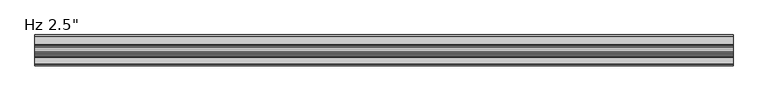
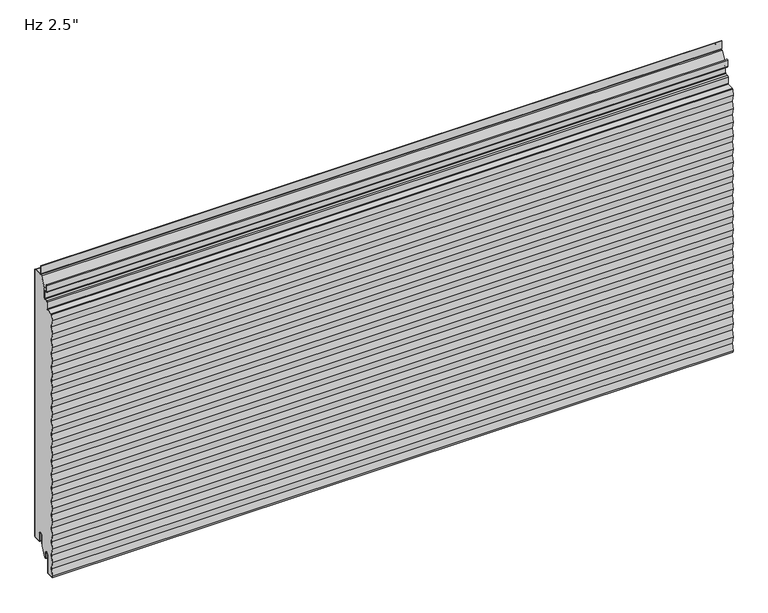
"""IFC4 building model written with IfcOpenShell, lengths in millimetres: plate geometry."""

from ifc_helpers import new_model, si_unit, point, frame, frame_2d, origin, place, context, project, spatial, polyline, circle_curve, ellipse_curve, trimmed, segment, composite_curve, outline, extrude, source, transform, mapped, element, save
from ifc_brep_helpers import plane_surface, cylinder_surface, revolved_surface, extruded_surface, advanced_brep


def plate_45d4bc66(model_context):
    return source(origin(), model_context, "Body", "SolidModel", [
        extrude(outline(composite_curve([segment(trimmed(circle_curve(frame_2d((-21.43125, 19.05)), 4.96875), [point((-16.4625, 19.05))], [point((-26.4, 19.05))], True, "CARTESIAN"), True, "CONTINUOUS"), segment(polyline([(-26.4, 19.05), (-26.4, -3.1323422), (-36.5326309, -23.01875), (-38.1, -23.01875), (-38.1, -13.5080174), (-38.89375, -13.5080174), (-38.6875, -11.9205174)]), True, "CONTINUOUS"), segment(trimmed(circle_curve(frame_2d((-43.65625, -11.9205174)), 4.96875), [point((-38.6875, -11.9205174))], [point((-48.625, -11.9205174))], True, "CARTESIAN"), True, "CONTINUOUS"), segment(polyline([(-48.625, -11.9205174), (-48.625, -50.1038221)]), True, "CONTINUOUS"), segment(trimmed(circle_curve(frame_2d((-50.00625, -50.1038221)), 1.38125), [point((-48.625, -50.1038221))], [point((-49.933961, -51.4831791))], False, "CARTESIAN"), True, "CONTINUOUS"), segment(polyline([(-49.933961, -51.4831791), (-63.1062471, -52.1735094), (-63.6378194, -48.8511825), (-61.1994194, -33.6111825), (-63.6378194, -18.3711825), (-61.1994194, -3.1311825), (-63.6378194, 12.1088175), (-61.1994194, 27.3488175), (-63.6378194, 42.5888175), (-61.1994194, 57.8288175), (-63.6378194, 73.0688175), (-61.1994194, 88.3088175), (-63.6378194, 103.5488175), (-61.1994194, 118.7888175), (-63.6378194, 134.0288175), (-61.1994194, 149.2688175), (-63.6378194, 164.5088175), (-61.1994194, 179.7488175), (-63.6378194, 194.9888175), (-61.1994194, 210.2288175), (-63.6378194, 225.4688175), (-61.1994194, 240.7088175), (-63.6378194, 255.9488175), (-61.1994194, 271.1888175), (-63.6378194, 286.4288175), (-61.1994194, 301.6688175), (-63.6378194, 316.9088175), (-61.1994194, 332.1488175), (-63.6378194, 347.3888175), (-61.1994194, 362.6288175), (-63.6378194, 377.8688175), (-61.1994194, 393.1088175), (-63.6378194, 408.3488175), (-61.1994194, 423.5888175), (-63.6378194, 438.8288175), (-61.1994194, 454.0688175), (-63.6378194, 469.3088175), (-61.1994194, 484.5488175), (-63.6378194, 499.7888175), (-61.1994194, 515.0288175), (-63.6054086, 530.06625), (-61.5673048, 542.8043985), (-47.4895807, 543.5421807)]), True, "CONTINUOUS"), segment(trimmed(circle_curve(frame_2d((-47.625, 546.1261347)), 2.5875), [point((-47.4895807, 543.5421807))], [point((-45.0375, 546.1261347))], True, "CARTESIAN"), True, "CONTINUOUS"), segment(polyline([(-45.0375, 546.1261347), (-45.0375, 560.2824411)]), True, "CONTINUOUS"), segment(trimmed(circle_curve(frame_2d((-43.65625, 560.2824411)), 1.38125), [point((-45.0375, 560.2824411))], [point((-43.728539, 561.6617981))], False, "CARTESIAN"), True, "CONTINUOUS"), segment(polyline([(-43.728539, 561.6617981), (-37.9645807, 561.9638744)]), True, "CONTINUOUS"), segment(trimmed(circle_curve(frame_2d((-38.1, 564.5478283)), 2.5875), [point((-37.9645807, 561.9638744))], [point((-35.5125, 564.5478283))], True, "CARTESIAN"), True, "CONTINUOUS"), segment(polyline([(-35.5125, 564.5478283), (-35.5125, 586.9892934), (-24.9057308, 607.80625), (-2.38125, 607.80625)]), True, "CONTINUOUS"), segment(trimmed(circle_curve(frame_2d((-2.38125, 606.425)), 1.38125), [point((-2.38125, 607.80625))], [point((-1.0, 606.425))], False, "CARTESIAN"), True, "CONTINUOUS"), segment(polyline([(-1.0, 606.425), (-1.0, 3.175)]), True, "CONTINUOUS"), segment(trimmed(circle_curve(frame_2d((-2.38125, 3.175)), 1.38125), [point((-1.0, 3.175))], [point((-2.38125, 1.79375))], False, "CARTESIAN"), True, "CONTINUOUS"), segment(polyline([(-2.38125, 1.79375), (-15.08125, 1.79375)]), True, "CONTINUOUS"), segment(trimmed(circle_curve(frame_2d((-15.08125, 3.175)), 1.38125), [point((-15.08125, 1.79375))], [point((-16.4625, 3.175))], False, "CARTESIAN"), True, "CONTINUOUS"), segment(polyline([(-16.4625, 3.175), (-16.4625, 19.05)]), True, "CONTINUOUS")], self_intersect=False)), frame((-730.0, 0.0, 0.0), z_axis=(1.0, 0.0, 0.0), x_axis=(0.0, 1.0, 0.0)), (0.0, 0.0, 1.0), 1460.0),
        extrude(outline(composite_curve([segment(polyline([(-25.4, 0.79375), (-26.4, 0.79375), (-26.4, 19.05)]), True, "CONTINUOUS"), segment(trimmed(circle_curve(frame_2d((-21.43125, 19.05)), 4.96875), [point((-26.4, 19.05))], [point((-16.4625, 19.05))], False, "CARTESIAN"), True, "CONTINUOUS"), segment(polyline([(-16.4625, 19.05), (-16.4625, 3.175)]), True, "CONTINUOUS"), segment(trimmed(circle_curve(frame_2d((-15.08125, 3.175)), 1.38125), [point((-16.4625, 3.175))], [point((-15.08125, 1.79375))], True, "CARTESIAN"), True, "CONTINUOUS"), segment(polyline([(-15.08125, 1.79375), (-2.38125, 1.79375)]), True, "CONTINUOUS"), segment(trimmed(circle_curve(frame_2d((-2.38125, 3.175)), 1.38125), [point((-2.38125, 1.79375))], [point((-1.0, 3.175))], True, "CARTESIAN"), True, "CONTINUOUS"), segment(polyline([(-1.0, 3.175), (-1.0, 606.425)]), True, "CONTINUOUS"), segment(trimmed(circle_curve(frame_2d((-2.38125, 606.425)), 1.38125), [point((-1.0, 606.425))], [point((-2.38125, 607.80625))], True, "CARTESIAN"), True, "CONTINUOUS"), segment(polyline([(-2.38125, 607.80625), (-19.446875, 607.80625)]), True, "CONTINUOUS"), segment(trimmed(circle_curve(frame_2d((-19.446875, 610.39375)), 2.5875), [point((-19.446875, 607.80625))], [point((-22.034375, 610.39375))], False, "CARTESIAN"), True, "CONTINUOUS"), segment(polyline([(-22.034375, 610.39375), (-22.034375, 627.85625), (-21.034375, 627.85625), (-21.034375, 610.39375)]), True, "CONTINUOUS"), segment(trimmed(circle_curve(frame_2d((-19.446875, 610.39375)), 1.5875), [point((-21.034375, 610.39375))], [point((-19.446875, 608.80625))], True, "CARTESIAN"), True, "CONTINUOUS"), segment(polyline([(-19.446875, 608.80625), (-2.38125, 608.80625)]), True, "CONTINUOUS"), segment(trimmed(circle_curve(frame_2d((-2.38125, 606.425)), 2.38125), [point((-2.38125, 608.80625))], [point((0.0, 606.425))], False, "CARTESIAN"), True, "CONTINUOUS"), segment(polyline([(0.0, 606.425), (0.0, 3.175)]), True, "CONTINUOUS"), segment(trimmed(circle_curve(frame_2d((-2.38125, 3.175)), 2.38125), [point((0.0, 3.175))], [point((-2.38125, 0.79375))], False, "CARTESIAN"), True, "CONTINUOUS"), segment(polyline([(-2.38125, 0.79375), (-15.08125, 0.79375)]), True, "CONTINUOUS"), segment(trimmed(circle_curve(frame_2d((-15.08125, 3.175)), 2.38125), [point((-15.08125, 0.79375))], [point((-17.4625, 3.175))], False, "CARTESIAN"), True, "CONTINUOUS"), segment(polyline([(-17.4625, 3.175), (-17.4625, 19.05)]), True, "CONTINUOUS"), segment(trimmed(circle_curve(frame_2d((-21.43125, 19.05)), 3.96875), [point((-17.4625, 19.05))], [point((-25.4, 19.05))], True, "CARTESIAN"), True, "CONTINUOUS"), segment(polyline([(-25.4, 19.05), (-25.4, 0.79375)]), True, "CONTINUOUS")], self_intersect=False)), frame((-730.0, 0.0, 0.0), z_axis=(1.0, 0.0, 0.0), x_axis=(0.0, 1.0, 0.0)), (0.0, 0.0, 1.0), 1460.0),
        advanced_brep(
        [(-730.0, -61.2998204, 271.1690814), (730.0, -61.2998204, 271.1690814), (730.0, -63.7382204, 255.9290814), (-730.0, -63.7382204, 255.9290814), (-730.0, -61.243375, 543.8227473), (730.0, -61.243375, 543.8227473), (730.0, -47.5419167, 544.5408103), (-730.0, -47.5419167, 544.5408103), (-730.0, -62.3125395, 515.0090814), (730.0, -62.3125395, 515.0090814), (730.0, -64.7185287, 530.0465139), (-730.0, -64.7185287, 530.0465139), (-730.0, -61.2998204, 515.0090814), (730.0, -61.2998204, 515.0090814), (730.0, -63.7382204, 499.7690814), (-730.0, -63.7382204, 499.7690814), (730.0, -61.2998204, 484.5290814), (-730.0, -61.2998204, 484.5290814), (730.0, -63.7382204, 469.2890814), (-730.0, -63.7382204, 469.2890814), (730.0, -61.2998204, 454.0490814), (-730.0, -61.2998204, 454.0490814), (730.0, -63.7382204, 438.8090814), (-730.0, -63.7382204, 438.8090814), (730.0, -61.2998204, 423.5690814), (-730.0, -61.2998204, 423.5690814), (730.0, -63.7382204, 408.3290814), (-730.0, -63.7382204, 408.3290814), (730.0, -61.2998204, 393.0890814), (-730.0, -61.2998204, 393.0890814), (730.0, -63.7382204, 377.8490814), (-730.0, -63.7382204, 377.8490814), (730.0, -61.2998204, 362.6090814), (-730.0, -61.2998204, 362.6090814), (730.0, -63.7382204, 347.3690814), (-730.0, -63.7382204, 347.3690814), (730.0, -61.2998204, 332.1290814), (-730.0, -61.2998204, 332.1290814), (730.0, -63.7382204, 316.8890814), (-730.0, -63.7382204, 316.8890814), (-730.0, -64.7509395, 438.8090814), (730.0, -64.7509395, 438.8090814), (730.0, -62.3125395, 454.0490814), (-730.0, -62.3125395, 454.0490814), (730.0, -64.7509395, 469.2890814), (-730.0, -64.7509395, 469.2890814), (730.0, -62.3125395, 484.5290814), (-730.0, -62.3125395, 484.5290814), (730.0, -64.7509395, 499.7690814), (-730.0, -64.7509395, 499.7690814), (-730.0, -61.191039, 542.8241177), (730.0, -61.191039, 542.8241177), (730.0, -61.740413, 542.3302423), (-730.0, -61.740413, 542.3302423), (730.0, -63.7058096, 530.0465139), (-730.0, -63.7058096, 530.0465139), (-730.0, -62.3125395, 362.6090814), (730.0, -62.3125395, 362.6090814), (730.0, -64.7509395, 377.8490814), (-730.0, -64.7509395, 377.8490814), (-730.0, -64.7509395, 408.3290814), (730.0, -64.7509395, 408.3290814), (730.0, -62.3125395, 423.5690814), (-730.0, -62.3125395, 423.5690814), (-730.0, -62.3125395, 301.6490814), (730.0, -62.3125395, 301.6490814), (730.0, -64.7509395, 316.8890814), (-730.0, -64.7509395, 316.8890814), (-730.0, -64.7509395, 347.3690814), (730.0, -64.7509395, 347.3690814), (-730.0, -62.3125395, 240.6890814), (730.0, -62.3125395, 240.6890814), (730.0, -64.7509395, 255.9290814), (-730.0, -64.7509395, 255.9290814), (-730.0, -64.7509395, 286.4090814), (730.0, -64.7509395, 286.4090814), (-730.0, -62.3125395, 179.7290814), (730.0, -62.3125395, 179.7290814), (730.0, -64.7509395, 194.9690814), (-730.0, -64.7509395, 194.9690814), (-730.0, -64.7509395, 225.4490814), (730.0, -64.7509395, 225.4490814), (-730.0, -62.3125395, 118.7690814), (730.0, -62.3125395, 118.7690814), (730.0, -64.7509395, 134.0090814), (-730.0, -64.7509395, 134.0090814), (-730.0, -64.7509395, 164.4890814), (730.0, -64.7509395, 164.4890814), (-730.0, -62.3125395, 57.8090814), (730.0, -62.3125395, 57.8090814), (730.0, -64.7509395, 73.0490814), (-730.0, -64.7509395, 73.0490814), (-730.0, -64.7509395, 103.5290814), (730.0, -64.7509395, 103.5290814), (-730.0, -62.3125395, -3.1509186), (730.0, -62.3125395, -3.1509186), (730.0, -64.7509395, 12.0890814), (-730.0, -64.7509395, 12.0890814), (-730.0, -64.7509395, 42.5690814), (730.0, -64.7509395, 42.5690814), (-730.0, -38.1, -23.2314549), (-730.0, -39.6875, -23.2314549), (-730.0, -39.6875, -11.9205174), (-730.0, -47.625, -11.9205174), (-730.0, -47.625, -50.1038221), (-730.0, -49.881625, -52.4818086), (-730.0, -64.0543553, -53.22457), (-730.0, -64.7509395, -48.8709186), (-730.0, -62.3125395, -33.6309186), (-730.0, -64.7509395, -18.3909186), (-730.0, -62.3125395, 27.3290814), (-730.0, -62.3125395, 88.2890814), (-730.0, -62.3125395, 149.2490814), (-730.0, -62.3125395, 210.2090814), (-730.0, -62.3125395, 271.1690814), (-730.0, -62.3125395, 332.1290814), (-730.0, -62.3125395, 393.0890814), (-730.0, -62.7278537, 542.4882328), (-730.0, -46.0375, 546.1261347), (-730.0, -46.0375, 560.2824411), (-730.0, -43.780875, 562.6604276), (-730.0, -38.0169167, 562.9625039), (-730.0, -36.5125, 564.5478283), (-730.0, -36.5125, 579.4232326), (-730.0, -38.1, 581.0107326), (-730.0, -42.2671875, 581.0107326), (-730.0, -44.6484375, 583.3919826), (-730.0, -44.6484375, 597.8836032), (-730.0, -42.8546875, 597.8836032), (-730.0, -42.8546875, 588.1544826), (-730.0, -43.6484375, 588.1544826), (-730.0, -43.6484375, 583.3919826), (-730.0, -42.2671875, 582.0107326), (-730.0, -38.1, 582.0107326), (-730.0, -35.5125, 579.4232326), (-730.0, -35.5125, 564.5478283), (-730.0, -37.9645807, 561.9638744), (-730.0, -43.728539, 561.6617981), (-730.0, -45.0375, 560.2824411), (-730.0, -45.0375, 546.1261347), (-730.0, -47.4895807, 543.5421807), (-730.0, -61.2998204, 301.6490814), (-730.0, -63.7382204, 286.4090814), (-730.0, -61.2998204, 240.6890814), (-730.0, -63.7382204, 225.4490814), (-730.0, -61.2998204, 210.2090814), (-730.0, -63.7382204, 194.9690814), (-730.0, -61.2998204, 179.7290814), (-730.0, -63.7382204, 164.4890814), (-730.0, -61.2998204, 149.2490814), (-730.0, -63.7382204, 134.0090814), (-730.0, -61.2998204, 118.7690814), (-730.0, -63.7382204, 103.5290814), (-730.0, -61.2998204, 88.2890814), (-730.0, -63.7382204, 73.0490814), (-730.0, -61.2998204, 57.8090814), (-730.0, -63.7382204, 42.5690814), (-730.0, -61.2998204, 27.3290814), (-730.0, -63.7382204, 12.0890814), (-730.0, -61.2998204, -3.1509186), (-730.0, -63.7382204, -18.3909186), (-730.0, -61.2998204, -33.6309186), (-730.0, -63.7382204, -48.8709186), (-730.0, -63.2089447, -52.1788915), (-730.0, -49.933961, -51.4831791), (-730.0, -48.625, -50.1038221), (-730.0, -48.625, -11.9205174), (-730.0, -38.6875, -11.9205174), (-730.0, -38.89375, -13.5080174), (-730.0, -38.1, -13.5080174), (730.0, -38.1, -23.2314549), (730.0, -38.1, -13.5080174), (730.0, -38.89375, -13.5080174), (730.0, -38.6875, -11.9205174), (730.0, -48.625, -11.9205174), (730.0, -48.625, -50.1038221), (730.0, -49.933961, -51.4831791), (730.0, -63.2089447, -52.1788915), (730.0, -63.7382204, -48.8709186), (730.0, -61.2998204, -33.6309186), (730.0, -63.7382204, -18.3909186), (730.0, -61.2998204, -3.1509186), (730.0, -63.7382204, 12.0890814), (730.0, -61.2998204, 27.3290814), (730.0, -63.7382204, 42.5690814), (730.0, -61.2998204, 57.8090814), (730.0, -63.7382204, 73.0490814), (730.0, -61.2998204, 88.2890814), (730.0, -63.7382204, 103.5290814), (730.0, -61.2998204, 118.7690814), (730.0, -63.7382204, 134.0090814), (730.0, -61.2998204, 149.2490814), (730.0, -63.7382204, 164.4890814), (730.0, -61.2998204, 179.7290814), (730.0, -63.7382204, 194.9690814), (730.0, -61.2998204, 210.2090814), (730.0, -63.7382204, 225.4490814), (730.0, -61.2998204, 240.6890814), (730.0, -63.7382204, 286.4090814), (730.0, -61.2998204, 301.6490814), (730.0, -47.4895807, 543.5421807), (730.0, -45.0375, 546.1261347), (730.0, -45.0375, 560.2824411), (730.0, -43.728539, 561.6617981), (730.0, -37.9645807, 561.9638744), (730.0, -35.5125, 564.5478283), (730.0, -35.5125, 579.4232326), (730.0, -38.1, 582.0107326), (730.0, -42.2671875, 582.0107326), (730.0, -43.6484375, 583.3919826), (730.0, -43.6484375, 588.1544826), (730.0, -42.8546875, 588.1544826), (730.0, -42.8546875, 597.8836032), (730.0, -44.6484375, 597.8836032), (730.0, -44.6484375, 583.3919826), (730.0, -42.2671875, 581.0107326), (730.0, -38.1, 581.0107326), (730.0, -36.5125, 579.4232326), (730.0, -36.5125, 564.5478283), (730.0, -38.0169167, 562.9625039), (730.0, -43.780875, 562.6604276), (730.0, -46.0375, 560.2824411), (730.0, -46.0375, 546.1261347), (730.0, -62.7278537, 542.4882328), (730.0, -62.3125395, 393.0890814), (730.0, -62.3125395, 332.1290814), (730.0, -62.3125395, 271.1690814), (730.0, -62.3125395, 210.2090814), (730.0, -62.3125395, 149.2490814), (730.0, -62.3125395, 88.2890814), (730.0, -62.3125395, 27.3290814), (730.0, -64.7509395, -18.3909186), (730.0, -62.3125395, -33.6309186), (730.0, -64.7509395, -48.8709186), (730.0, -64.0543553, -53.22457), (730.0, -49.881625, -52.4818086), (730.0, -47.625, -50.1038221), (730.0, -47.625, -11.9205174), (730.0, -39.6875, -11.9205174), (730.0, -39.6875, -23.2314549)],
        [
            (0, 1),
            (1, 2),
            (2, 3),
            (3, 0),
            (4, 5),
            (5, 6),
            (6, 7),
            (7, 4),
            (8, 9),
            (9, 10),
            (10, 11),
            (11, 8),
            (12, 13),
            (13, 14),
            (14, 15),
            (15, 12),
            (14, 16),
            (16, 17),
            (17, 15),
            (16, 18),
            (18, 19),
            (19, 17),
            (18, 20),
            (20, 21),
            (21, 19),
            (20, 22),
            (22, 23),
            (23, 21),
            (22, 24),
            (24, 25),
            (25, 23),
            (24, 26),
            (26, 27),
            (27, 25),
            (26, 28),
            (28, 29),
            (29, 27),
            (28, 30),
            (30, 31),
            (31, 29),
            (30, 32),
            (32, 33),
            (33, 31),
            (32, 34),
            (34, 35),
            (35, 33),
            (34, 36),
            (36, 37),
            (37, 35),
            (36, 38),
            (38, 39),
            (39, 37),
            (40, 41),
            (41, 42),
            (42, 43),
            (43, 40),
            (42, 44),
            (44, 45),
            (45, 43),
            (44, 46),
            (46, 47),
            (47, 45),
            (46, 48),
            (48, 49),
            (49, 47),
            (48, 9),
            (8, 49),
            (50, 51),
            (51, 52, circle_curve(frame((730.0, -61.1602917, 542.2374229), z_axis=(1.0, 0.0, 0.0), x_axis=(0.0, 0.0, 1.0)), 0.5875)),
            (52, 53),
            (53, 50, circle_curve(frame((-730.0, -61.1602917, 542.2374229), z_axis=(-1.0, 0.0, 0.0), x_axis=(0.0, 0.0, 1.0)), 0.5875)),
            (52, 54),
            (54, 55),
            (55, 53),
            (56, 57),
            (57, 58),
            (58, 59),
            (59, 56),
            (60, 61),
            (61, 62),
            (62, 63),
            (63, 60),
            (64, 65),
            (65, 66),
            (66, 67),
            (67, 64),
            (68, 69),
            (69, 57),
            (56, 68),
            (70, 71),
            (71, 72),
            (72, 73),
            (73, 70),
            (74, 75),
            (75, 65),
            (64, 74),
            (76, 77),
            (77, 78),
            (78, 79),
            (79, 76),
            (80, 81),
            (81, 71),
            (70, 80),
            (82, 83),
            (83, 84),
            (84, 85),
            (85, 82),
            (86, 87),
            (87, 77),
            (76, 86),
            (88, 89),
            (89, 90),
            (90, 91),
            (91, 88),
            (92, 93),
            (93, 83),
            (82, 92),
            (94, 95),
            (95, 96),
            (96, 97),
            (97, 94),
            (98, 99),
            (99, 89),
            (88, 98),
            (100, 101, circle_curve(frame((-730.0, -38.89375, -23.2314549), z_axis=(-1.0, 0.0, 0.0), x_axis=(0.0, 0.0, 1.0)), 0.79375)),
            (101, 102),
            (102, 103, circle_curve(frame((-730.0, -43.65625, -11.9205174), z_axis=(1.0, 0.0, 0.0), x_axis=(0.0, 0.0, 1.0)), 3.96875)),
            (103, 104),
            (104, 105, circle_curve(frame((-730.0, -50.00625, -50.1038221), z_axis=(-1.0, 0.0, 0.0), x_axis=(0.0, 0.0, 1.0)), 2.38125)),
            (105, 106),
            (106, 107),
            (107, 108),
            (108, 109),
            (109, 94),
            (97, 110),
            (110, 98),
            (91, 111),
            (111, 92),
            (85, 112),
            (112, 86),
            (79, 113),
            (113, 80),
            (73, 114),
            (114, 74),
            (67, 115),
            (115, 68),
            (59, 116),
            (116, 60),
            (63, 40),
            (11, 117),
            (117, 4, circle_curve(frame((-730.0, -61.1602917, 542.2374229), z_axis=(-1.0, 0.0, 0.0), x_axis=(0.0, 0.0, 1.0)), 1.5875)),
            (7, 118, circle_curve(frame((-730.0, -47.625, 546.1261347), z_axis=(1.0, 0.0, 0.0), x_axis=(0.0, 0.0, 1.0)), 1.5875)),
            (118, 119),
            (119, 120, circle_curve(frame((-730.0, -43.65625, 560.2824411), z_axis=(-1.0, 0.0, 0.0), x_axis=(0.0, 0.0, 1.0)), 2.38125)),
            (120, 121),
            (121, 122, circle_curve(frame((-730.0, -38.1, 564.5478283), z_axis=(1.0, 0.0, 0.0), x_axis=(0.0, 0.0, 1.0)), 1.5875)),
            (122, 123),
            (123, 124, circle_curve(frame((-730.0, -38.1, 579.4232326), z_axis=(1.0, 0.0, 0.0), x_axis=(0.0, 0.0, 1.0)), 1.5875)),
            (124, 125),
            (125, 126, circle_curve(frame((-730.0, -42.2671875, 583.3919826), z_axis=(-1.0, 0.0, 0.0), x_axis=(0.0, 0.0, 1.0)), 2.38125)),
            (126, 127),
            (127, 128, ellipse_curve(frame((-730.0, -43.7515625, 597.8836032), z_axis=(-1.0, 0.0, 0.0), x_axis=(0.0, 1.0, 0.0)), 0.896875, 0.7852275)),
            (128, 129),
            (129, 130),
            (130, 131),
            (131, 132, circle_curve(frame((-730.0, -42.2671875, 583.3919826), z_axis=(1.0, 0.0, 0.0), x_axis=(0.0, 0.0, 1.0)), 1.38125)),
            (132, 133),
            (133, 134, circle_curve(frame((-730.0, -38.1, 579.4232326), z_axis=(-1.0, 0.0, 0.0), x_axis=(0.0, 0.0, 1.0)), 2.5875)),
            (134, 135),
            (135, 136, circle_curve(frame((-730.0, -38.1, 564.5478283), z_axis=(-1.0, 0.0, 0.0), x_axis=(0.0, 0.0, 1.0)), 2.5875)),
            (136, 137),
            (137, 138, circle_curve(frame((-730.0, -43.65625, 560.2824411), z_axis=(1.0, 0.0, 0.0), x_axis=(0.0, 0.0, 1.0)), 1.38125)),
            (138, 139),
            (139, 140, circle_curve(frame((-730.0, -47.625, 546.1261347), z_axis=(-1.0, 0.0, 0.0), x_axis=(0.0, 0.0, 1.0)), 2.5875)),
            (140, 50),
            (55, 12),
            (39, 141),
            (141, 142),
            (142, 0),
            (3, 143),
            (143, 144),
            (144, 145),
            (145, 146),
            (146, 147),
            (147, 148),
            (148, 149),
            (149, 150),
            (150, 151),
            (151, 152),
            (152, 153),
            (153, 154),
            (154, 155),
            (155, 156),
            (156, 157),
            (157, 158),
            (158, 159),
            (159, 160),
            (160, 161),
            (161, 162),
            (162, 163),
            (163, 164),
            (164, 165, circle_curve(frame((-730.0, -50.00625, -50.1038221), z_axis=(1.0, 0.0, 0.0), x_axis=(0.0, 0.0, 1.0)), 1.38125)),
            (165, 166),
            (166, 167, circle_curve(frame((-730.0, -43.65625, -11.9205174), z_axis=(-1.0, 0.0, 0.0), x_axis=(0.0, 0.0, 1.0)), 4.96875)),
            (167, 168),
            (168, 169),
            (169, 100),
            (170, 171),
            (171, 172),
            (172, 173),
            (173, 174, circle_curve(frame((730.0, -43.65625, -11.9205174), z_axis=(1.0, 0.0, 0.0), x_axis=(0.0, 0.0, 1.0)), 4.96875)),
            (174, 175),
            (175, 176, circle_curve(frame((730.0, -50.00625, -50.1038221), z_axis=(-1.0, 0.0, 0.0), x_axis=(0.0, 0.0, 1.0)), 1.38125)),
            (176, 177),
            (177, 178),
            (178, 179),
            (179, 180),
            (180, 181),
            (181, 182),
            (182, 183),
            (183, 184),
            (184, 185),
            (185, 186),
            (186, 187),
            (187, 188),
            (188, 189),
            (189, 190),
            (190, 191),
            (191, 192),
            (192, 193),
            (193, 194),
            (194, 195),
            (195, 196),
            (196, 197),
            (197, 2),
            (1, 198),
            (198, 199),
            (199, 38),
            (13, 54),
            (51, 200),
            (200, 201, circle_curve(frame((730.0, -47.625, 546.1261347), z_axis=(1.0, 0.0, 0.0), x_axis=(0.0, 0.0, 1.0)), 2.5875)),
            (201, 202),
            (202, 203, circle_curve(frame((730.0, -43.65625, 560.2824411), z_axis=(-1.0, 0.0, 0.0), x_axis=(0.0, 0.0, 1.0)), 1.38125)),
            (203, 204),
            (204, 205, circle_curve(frame((730.0, -38.1, 564.5478283), z_axis=(1.0, 0.0, 0.0), x_axis=(0.0, 0.0, 1.0)), 2.5875)),
            (205, 206),
            (206, 207, circle_curve(frame((730.0, -38.1, 579.4232326), z_axis=(1.0, 0.0, 0.0), x_axis=(0.0, 0.0, 1.0)), 2.5875)),
            (207, 208),
            (208, 209, circle_curve(frame((730.0, -42.2671875, 583.3919826), z_axis=(-1.0, 0.0, 0.0), x_axis=(0.0, 0.0, 1.0)), 1.38125)),
            (209, 210),
            (210, 211),
            (211, 212),
            (212, 213, ellipse_curve(frame((730.0, -43.7515625, 597.8836032), z_axis=(1.0, 0.0, 0.0), x_axis=(0.0, 1.0, 0.0)), 0.896875, 0.7852275)),
            (213, 214),
            (214, 215, circle_curve(frame((730.0, -42.2671875, 583.3919826), z_axis=(1.0, 0.0, 0.0), x_axis=(0.0, 0.0, 1.0)), 2.38125)),
            (215, 216),
            (216, 217, circle_curve(frame((730.0, -38.1, 579.4232326), z_axis=(-1.0, 0.0, 0.0), x_axis=(0.0, 0.0, 1.0)), 1.5875)),
            (217, 218),
            (218, 219, circle_curve(frame((730.0, -38.1, 564.5478283), z_axis=(-1.0, 0.0, 0.0), x_axis=(0.0, 0.0, 1.0)), 1.5875)),
            (219, 220),
            (220, 221, circle_curve(frame((730.0, -43.65625, 560.2824411), z_axis=(1.0, 0.0, 0.0), x_axis=(0.0, 0.0, 1.0)), 2.38125)),
            (221, 222),
            (222, 6, circle_curve(frame((730.0, -47.625, 546.1261347), z_axis=(-1.0, 0.0, 0.0), x_axis=(0.0, 0.0, 1.0)), 1.5875)),
            (5, 223, circle_curve(frame((730.0, -61.1602917, 542.2374229), z_axis=(1.0, 0.0, 0.0), x_axis=(0.0, 0.0, 1.0)), 1.5875)),
            (223, 10),
            (41, 62),
            (61, 224),
            (224, 58),
            (69, 225),
            (225, 66),
            (75, 226),
            (226, 72),
            (81, 227),
            (227, 78),
            (87, 228),
            (228, 84),
            (93, 229),
            (229, 90),
            (99, 230),
            (230, 96),
            (95, 231),
            (231, 232),
            (232, 233),
            (233, 234),
            (234, 235),
            (235, 236, circle_curve(frame((730.0, -50.00625, -50.1038221), z_axis=(1.0, 0.0, 0.0), x_axis=(0.0, 0.0, 1.0)), 2.38125)),
            (236, 237),
            (237, 238, circle_curve(frame((730.0, -43.65625, -11.9205174), z_axis=(-1.0, 0.0, 0.0), x_axis=(0.0, 0.0, 1.0)), 3.96875)),
            (238, 239),
            (239, 170, circle_curve(frame((730.0, -38.89375, -23.2314549), z_axis=(1.0, 0.0, 0.0), x_axis=(0.0, 0.0, 1.0)), 0.79375)),
            (169, 171),
            (170, 100),
            (163, 177),
            (176, 164),
            (175, 165),
            (174, 166),
            (173, 167),
            (168, 172),
            (129, 211),
            (210, 130),
            (128, 212),
            (127, 213),
            (139, 201),
            (200, 140),
            (137, 203),
            (202, 138),
            (135, 205),
            (204, 136),
            (131, 209),
            (208, 132),
            (133, 207),
            (206, 134),
            (126, 214),
            (124, 216),
            (215, 125),
            (122, 218),
            (217, 123),
            (120, 220),
            (219, 121),
            (118, 222),
            (221, 119),
            (105, 235),
            (234, 106),
            (103, 237),
            (236, 104),
            (101, 239),
            (238, 102),
            (199, 141),
            (198, 142),
            (197, 143),
            (196, 144),
            (195, 145),
            (194, 146),
            (193, 147),
            (192, 148),
            (191, 149),
            (190, 150),
            (189, 151),
            (223, 117),
            (116, 224),
            (115, 225),
            (114, 226),
            (113, 227),
            (112, 228),
            (111, 229),
            (110, 230),
            (108, 232),
            (231, 109),
            (233, 107),
            (161, 179),
            (178, 162),
            (159, 181),
            (180, 160),
            (157, 183),
            (182, 158),
            (155, 185),
            (184, 156),
            (153, 187),
            (186, 154),
            (188, 152),
        ],
        [
            plane_surface(frame((-730.0, -63.7382204, 255.9290814), z_axis=(0.0, 0.987440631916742, -0.15799050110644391), x_axis=(1.0, 0.0, 0.0))),
            plane_surface(frame((-730.0, -47.5419167, 544.5408103), z_axis=(0.0, -0.052335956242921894, 0.998629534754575), x_axis=(1.0, 0.0, 0.0))),
            plane_surface(frame((-730.0, -64.7185287, 530.0465139), z_axis=(0.0, -0.9874406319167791, -0.15799050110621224), x_axis=(1.0, 0.0, 0.0))),
            plane_surface(frame((-730.0, -63.7382204, 499.7690814), z_axis=(0.0, 0.9874406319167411, -0.15799050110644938), x_axis=(1.0, 0.0, 0.0))),
            plane_surface(frame((-730.0, -61.2998204, 484.5290814), z_axis=(0.0, 0.987440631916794, 0.1579905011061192), x_axis=(1.0, 0.0, 0.0))),
            plane_surface(frame((-730.0, -63.7382204, 469.2890814), z_axis=(0.0, 0.987440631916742, -0.15799050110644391), x_axis=(1.0, 0.0, 0.0))),
            plane_surface(frame((-730.0, -61.2998204, 454.0490814), z_axis=(0.0, 0.987440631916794, 0.1579905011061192), x_axis=(1.0, 0.0, 0.0))),
            plane_surface(frame((-730.0, -63.7382204, 438.8090814), z_axis=(0.0, 0.987440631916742, -0.15799050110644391), x_axis=(1.0, 0.0, 0.0))),
            plane_surface(frame((-730.0, -61.2998204, 423.5690814), z_axis=(0.0, 0.987440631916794, 0.1579905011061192), x_axis=(1.0, 0.0, 0.0))),
            plane_surface(frame((-730.0, -63.7382204, 408.3290814), z_axis=(0.0, 0.987440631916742, -0.15799050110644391), x_axis=(1.0, 0.0, 0.0))),
            plane_surface(frame((-730.0, -61.2998204, 393.0890814), z_axis=(0.0, 0.9874406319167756, 0.15799050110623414), x_axis=(1.0, 0.0, 0.0))),
            plane_surface(frame((-730.0, -63.7382204, 377.8490814), z_axis=(0.0, 0.9874406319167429, -0.15799050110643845), x_axis=(1.0, 0.0, 0.0))),
            plane_surface(frame((-730.0, -61.2998204, 362.6090814), z_axis=(0.0, 0.9874406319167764, 0.15799050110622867), x_axis=(1.0, 0.0, 0.0))),
            plane_surface(frame((-730.0, -63.7382204, 347.3690814), z_axis=(0.0, 0.9874406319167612, -0.1579905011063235), x_axis=(1.0, 0.0, 0.0))),
            plane_surface(frame((-730.0, -61.2998204, 332.1290814), z_axis=(0.0, 0.9874406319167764, 0.15799050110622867), x_axis=(1.0, 0.0, 0.0))),
            plane_surface(frame((-730.0, -63.7382204, 316.8890814), z_axis=(0.0, 0.987440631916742, -0.15799050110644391), x_axis=(1.0, 0.0, 0.0))),
            plane_surface(frame((-730.0, -62.3125395, 454.0490814), z_axis=(0.0, -0.9874406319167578, 0.15799050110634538), x_axis=(1.0, 0.0, 0.0))),
            plane_surface(frame((-730.0, -64.7509395, 469.2890814), z_axis=(0.0, -0.9874406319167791, -0.15799050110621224), x_axis=(1.0, 0.0, 0.0))),
            plane_surface(frame((-730.0, -62.3125395, 484.5290814), z_axis=(0.0, -0.9874406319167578, 0.15799050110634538), x_axis=(1.0, 0.0, 0.0))),
            plane_surface(frame((-730.0, -64.7509395, 499.7690814), z_axis=(0.0, -0.9874406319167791, -0.15799050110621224), x_axis=(1.0, 0.0, 0.0))),
            plane_surface(frame((-730.0, -62.3125395, 515.0090814), z_axis=(0.0, -0.9874406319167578, 0.15799050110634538), x_axis=(1.0, 0.0, 0.0))),
            revolved_surface(polyline([(730.0, -61.1602917, 542.8249228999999), (-730.0, -61.1602917, 542.8249228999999)]), (-730.0, -61.1602917, 542.2374229), (1.0, 0.0, 0.0)),
            plane_surface(frame((-730.0, -63.7058096, 530.0465139), z_axis=(0.0, 0.9874406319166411, -0.15799050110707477), x_axis=(1.0, 0.0, 0.0))),
            plane_surface(frame((-730.0, -64.7509395, 377.8490814), z_axis=(0.0, -0.9874406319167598, -0.15799050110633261), x_axis=(1.0, 0.0, 0.0))),
            plane_surface(frame((-730.0, -62.3125395, 423.5690814), z_axis=(0.0, -0.9874406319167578, 0.15799050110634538), x_axis=(1.0, 0.0, 0.0))),
            plane_surface(frame((-730.0, -64.7509395, 316.8890814), z_axis=(0.0, -0.9874406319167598, -0.15799050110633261), x_axis=(1.0, 0.0, 0.0))),
            plane_surface(frame((-730.0, -62.3125395, 362.6090814), z_axis=(0.0, -0.9874406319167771, 0.157990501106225), x_axis=(1.0, 0.0, 0.0))),
            plane_surface(frame((-730.0, -64.7509395, 255.9290814), z_axis=(0.0, -0.9874406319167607, -0.15799050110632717), x_axis=(1.0, 0.0, 0.0))),
            plane_surface(frame((-730.0, -62.3125395, 301.6490814), z_axis=(0.0, -0.9874406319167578, 0.15799050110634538), x_axis=(1.0, 0.0, 0.0))),
            plane_surface(frame((-730.0, -64.7509395, 194.9690814), z_axis=(0.0, -0.9874406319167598, -0.15799050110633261), x_axis=(1.0, 0.0, 0.0))),
            plane_surface(frame((-730.0, -62.3125395, 240.6890814), z_axis=(0.0, -0.9874406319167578, 0.15799050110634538), x_axis=(1.0, 0.0, 0.0))),
            plane_surface(frame((-730.0, -64.7509395, 134.0090814), z_axis=(0.0, -0.9874406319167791, -0.15799050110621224), x_axis=(1.0, 0.0, 0.0))),
            plane_surface(frame((-730.0, -62.3125395, 179.7290814), z_axis=(0.0, -0.9874406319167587, 0.15799050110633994), x_axis=(1.0, 0.0, 0.0))),
            plane_surface(frame((-730.0, -64.7509395, 73.0490814), z_axis=(0.0, -0.9874406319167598, -0.15799050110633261), x_axis=(1.0, 0.0, 0.0))),
            plane_surface(frame((-730.0, -62.3125395, 118.7690814), z_axis=(0.0, -0.9874406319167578, 0.15799050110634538), x_axis=(1.0, 0.0, 0.0))),
            plane_surface(frame((-730.0, -64.7509395, 12.0890814), z_axis=(0.0, -0.9874406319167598, -0.15799050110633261), x_axis=(1.0, 0.0, 0.0))),
            plane_surface(frame((-730.0, -62.3125395, 57.8090814), z_axis=(0.0, -0.9874406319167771, 0.157990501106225), x_axis=(1.0, 0.0, 0.0))),
            plane_surface(frame((-730.0, -63.5, 304.8), z_axis=(-1.0, 0.0, 0.0), x_axis=(0.0, -1.0, 0.0))),
            plane_surface(frame((730.0, -63.5, 304.8), z_axis=(1.0, 0.0, 0.0), x_axis=(0.0, -1.0, 0.0))),
            plane_surface(frame((-730.0, -38.1, -23.2314549), z_axis=(0.0, 1.0, 0.0), x_axis=(1.0, 0.0, 0.0))),
            plane_surface(frame((-730.0, -49.933961, -51.4831791), z_axis=(0.0, -0.052335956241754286, 0.9986295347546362), x_axis=(1.0, 0.0, 0.0))),
            revolved_surface(polyline([(730.0, -50.00625, -48.7225721), (-730.0, -50.00625, -48.7225721)]), (-730.0, -50.00625, -50.1038221), (1.0, 0.0, 0.0)),
            plane_surface(frame((-730.0, -48.625, -11.9205174), z_axis=(0.0, -1.0, 0.0), x_axis=(1.0, 0.0, 0.0))),
            cylinder_surface(frame((-730.0, -43.65625, -11.9205174), z_axis=(-1.0, 0.0, 0.0), x_axis=(0.0, 0.0, 1.0)), 4.96875),
            plane_surface(frame((-730.0, -38.1, -13.5080174), z_axis=(0.0, 0.0, 1.0), x_axis=(1.0, 0.0, 0.0))),
            plane_surface(frame((-730.0, -38.89375, -13.5080174), z_axis=(0.0, 0.9916655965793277, -0.12883844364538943), x_axis=(1.0, 0.0, 0.0))),
            plane_surface(frame((-730.0, -43.6484375, 588.1544826), z_axis=(0.0, 0.0, -1.0), x_axis=(1.0, 0.0, 0.0))),
            plane_surface(frame((-730.0, -42.8546875, 588.1544826), z_axis=(0.0, 1.0, 0.0), x_axis=(1.0, 0.0, 0.0))),
            extruded_surface(trimmed(ellipse_curve(frame((-730.0, -43.7515625, 597.8836032), z_axis=(1.0, 0.0, 0.0), x_axis=(0.0, 1.0, 0.0)), 0.896875, 0.7852275), [point((-730.0, -42.8546875, 597.8836032))], [point((-730.0, -44.6484375, 597.8836032))], True, "CARTESIAN"), (1460.0, 0.0, 0.0), 1460.0),
            cylinder_surface(frame((-730.0, -47.625, 546.1261347), z_axis=(-1.0, 0.0, 0.0), x_axis=(0.0, 0.0, 1.0)), 2.5875),
            revolved_surface(polyline([(730.0, -43.65625, 561.6636911), (-730.0, -43.65625, 561.6636911)]), (-730.0, -43.65625, 560.2824411), (1.0, 0.0, 0.0)),
            cylinder_surface(frame((-730.0, -38.1, 564.5478283), z_axis=(-1.0, 0.0, 0.0), x_axis=(0.0, 0.0, 1.0)), 2.5875),
            plane_surface(frame((-730.0, -43.728539, 561.6617981), z_axis=(0.0, 0.0523359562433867, -0.9986295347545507), x_axis=(1.0, 0.0, 0.0))),
            plane_surface(frame((-730.0, -45.0375, 546.1261347), z_axis=(0.0, 1.0, 0.0), x_axis=(1.0, 0.0, 0.0))),
            revolved_surface(polyline([(730.0, -42.2671875, 584.7732326), (-730.0, -42.2671875, 584.7732326)]), (-730.0, -42.2671875, 583.3919826), (1.0, 0.0, 0.0)),
            cylinder_surface(frame((-730.0, -38.1, 579.4232326), z_axis=(-1.0, 0.0, 0.0), x_axis=(0.0, 0.0, 1.0)), 2.5875),
            plane_surface(frame((-730.0, -38.1, 582.0107326), z_axis=(0.0, 0.0, 1.0), x_axis=(1.0, 0.0, 0.0))),
            plane_surface(frame((-730.0, -43.6484375, 583.3919826), z_axis=(0.0, 1.0, 0.0), x_axis=(1.0, 0.0, 0.0))),
            plane_surface(frame((-730.0, -44.6484375, 597.8836032), z_axis=(0.0, -1.0, 0.0), x_axis=(1.0, 0.0, 0.0))),
            plane_surface(frame((-730.0, -42.2671875, 581.0107326), z_axis=(0.0, 0.0, -1.0), x_axis=(1.0, 0.0, 0.0))),
            cylinder_surface(frame((-730.0, -42.2671875, 583.3919826), z_axis=(-1.0, 0.0, 0.0), x_axis=(0.0, 0.0, 1.0)), 2.38125),
            plane_surface(frame((-730.0, -35.5125, 564.5478283), z_axis=(0.0, 1.0, 0.0), x_axis=(1.0, 0.0, 0.0))),
            plane_surface(frame((-730.0, -36.5125, 579.4232326), z_axis=(0.0, -1.0, 0.0), x_axis=(1.0, 0.0, 0.0))),
            plane_surface(frame((-730.0, -38.0169167, 562.9625039), z_axis=(0.0, -0.052335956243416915, 0.9986295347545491), x_axis=(1.0, 0.0, 0.0))),
            revolved_surface(polyline([(730.0, -38.1, 566.1353283), (-730.0, -38.1, 566.1353283)]), (-730.0, -38.1, 564.5478283), (1.0, 0.0, 0.0)),
            revolved_surface(polyline([(730.0, -38.1, 581.0107326), (-730.0, -38.1, 581.0107326)]), (-730.0, -38.1, 579.4232326), (1.0, 0.0, 0.0)),
            plane_surface(frame((-730.0, -46.0375, 560.2824411), z_axis=(0.0, -1.0, 0.0), x_axis=(1.0, 0.0, 0.0))),
            revolved_surface(polyline([(730.0, -47.625, 547.7136347), (-730.0, -47.625, 547.7136347)]), (-730.0, -47.625, 546.1261347), (1.0, 0.0, 0.0)),
            cylinder_surface(frame((-730.0, -43.65625, 560.2824411), z_axis=(-1.0, 0.0, 0.0), x_axis=(0.0, 0.0, 1.0)), 2.38125),
            plane_surface(frame((-730.0, -64.0543553, -53.22457), z_axis=(0.0, 0.052335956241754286, -0.9986295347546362), x_axis=(1.0, 0.0, 0.0))),
            plane_surface(frame((-730.0, -47.625, -50.1038221), z_axis=(0.0, 1.0, 0.0), x_axis=(1.0, 0.0, 0.0))),
            plane_surface(frame((-730.0, -39.6875, -11.9205174), z_axis=(0.0, -1.0, 0.0), x_axis=(1.0, 0.0, 0.0))),
            revolved_surface(polyline([(730.0, -43.65625, -7.9517674), (-730.0, -43.65625, -7.9517674)]), (-730.0, -43.65625, -11.9205174), (1.0, 0.0, 0.0)),
            cylinder_surface(frame((-730.0, -50.00625, -50.1038221), z_axis=(-1.0, 0.0, 0.0), x_axis=(0.0, 0.0, 1.0)), 2.38125),
            cylinder_surface(frame((-730.0, -38.89375, -23.2314549), z_axis=(-1.0, 0.0, 0.0), x_axis=(0.0, 0.0, 1.0)), 0.79375),
            plane_surface(frame((-730.0, -61.2998204, 301.6490814), z_axis=(0.0, 0.9874406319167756, 0.15799050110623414), x_axis=(1.0, 0.0, 0.0))),
            plane_surface(frame((-730.0, -63.7382204, 286.4090814), z_axis=(0.0, 0.987440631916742, -0.15799050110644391), x_axis=(1.0, 0.0, 0.0))),
            plane_surface(frame((-730.0, -61.2998204, 271.1690814), z_axis=(0.0, 0.987440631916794, 0.1579905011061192), x_axis=(1.0, 0.0, 0.0))),
            plane_surface(frame((-730.0, -61.2998204, 240.6890814), z_axis=(0.0, 0.9874406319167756, 0.15799050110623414), x_axis=(1.0, 0.0, 0.0))),
            plane_surface(frame((-730.0, -63.7382204, 225.4490814), z_axis=(0.0, 0.9874406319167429, -0.15799050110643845), x_axis=(1.0, 0.0, 0.0))),
            plane_surface(frame((-730.0, -61.2998204, 210.2090814), z_axis=(0.0, 0.9874406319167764, 0.15799050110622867), x_axis=(1.0, 0.0, 0.0))),
            plane_surface(frame((-730.0, -63.7382204, 194.9690814), z_axis=(0.0, 0.9874406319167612, -0.1579905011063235), x_axis=(1.0, 0.0, 0.0))),
            plane_surface(frame((-730.0, -61.2998204, 179.7290814), z_axis=(0.0, 0.9874406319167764, 0.15799050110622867), x_axis=(1.0, 0.0, 0.0))),
            plane_surface(frame((-730.0, -63.7382204, 164.4890814), z_axis=(0.0, 0.987440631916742, -0.15799050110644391), x_axis=(1.0, 0.0, 0.0))),
            plane_surface(frame((-730.0, -61.2998204, 149.2490814), z_axis=(0.0, 0.9874406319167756, 0.15799050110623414), x_axis=(1.0, 0.0, 0.0))),
            plane_surface(frame((-730.0, -63.7382204, 134.0090814), z_axis=(0.0, 0.987440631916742, -0.15799050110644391), x_axis=(1.0, 0.0, 0.0))),
            plane_surface(frame((-730.0, -61.2998204, 118.7690814), z_axis=(0.0, 0.987440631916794, 0.1579905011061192), x_axis=(1.0, 0.0, 0.0))),
            plane_surface(frame((-730.0, -61.191039, 542.8241177), z_axis=(0.0, 0.05233595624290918, -0.9986295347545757), x_axis=(1.0, 0.0, 0.0))),
            plane_surface(frame((-730.0, -61.2998204, 515.0090814), z_axis=(0.0, 0.9874406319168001, 0.15799050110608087), x_axis=(1.0, 0.0, 0.0))),
            plane_surface(frame((-730.0, -64.7509395, 438.8090814), z_axis=(0.0, -0.9874406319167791, -0.15799050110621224), x_axis=(1.0, 0.0, 0.0))),
            plane_surface(frame((-730.0, -62.7278537, 542.4882328), z_axis=(0.0, -0.9874406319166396, 0.15799050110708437), x_axis=(1.0, 0.0, 0.0))),
            cylinder_surface(frame((-730.0, -61.1602917, 542.2374229), z_axis=(-1.0, 0.0, 0.0), x_axis=(0.0, 0.0, 1.0)), 1.5875),
            plane_surface(frame((-730.0, -64.7509395, 408.3290814), z_axis=(0.0, -0.9874406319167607, -0.15799050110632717), x_axis=(1.0, 0.0, 0.0))),
            plane_surface(frame((-730.0, -62.3125395, 393.0890814), z_axis=(0.0, -0.9874406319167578, 0.15799050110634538), x_axis=(1.0, 0.0, 0.0))),
            plane_surface(frame((-730.0, -64.7509395, 347.3690814), z_axis=(0.0, -0.9874406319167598, -0.15799050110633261), x_axis=(1.0, 0.0, 0.0))),
            plane_surface(frame((-730.0, -62.3125395, 332.1290814), z_axis=(0.0, -0.9874406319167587, 0.15799050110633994), x_axis=(1.0, 0.0, 0.0))),
            plane_surface(frame((-730.0, -64.7509395, 286.4090814), z_axis=(0.0, -0.9874406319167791, -0.15799050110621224), x_axis=(1.0, 0.0, 0.0))),
            plane_surface(frame((-730.0, -62.3125395, 271.1690814), z_axis=(0.0, -0.9874406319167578, 0.15799050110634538), x_axis=(1.0, 0.0, 0.0))),
            plane_surface(frame((-730.0, -64.7509395, 225.4490814), z_axis=(0.0, -0.9874406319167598, -0.15799050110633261), x_axis=(1.0, 0.0, 0.0))),
            plane_surface(frame((-730.0, -62.3125395, 210.2090814), z_axis=(0.0, -0.9874406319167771, 0.157990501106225), x_axis=(1.0, 0.0, 0.0))),
            plane_surface(frame((-730.0, -64.7509395, 164.4890814), z_axis=(0.0, -0.9874406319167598, -0.15799050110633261), x_axis=(1.0, 0.0, 0.0))),
            plane_surface(frame((-730.0, -62.3125395, 149.2490814), z_axis=(0.0, -0.9874406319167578, 0.15799050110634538), x_axis=(1.0, 0.0, 0.0))),
            plane_surface(frame((-730.0, -64.7509395, 103.5290814), z_axis=(0.0, -0.9874406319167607, -0.15799050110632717), x_axis=(1.0, 0.0, 0.0))),
            plane_surface(frame((-730.0, -62.3125395, 88.2890814), z_axis=(0.0, -0.9874406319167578, 0.15799050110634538), x_axis=(1.0, 0.0, 0.0))),
            plane_surface(frame((-730.0, -64.7509395, 42.5690814), z_axis=(0.0, -0.9874406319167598, -0.15799050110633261), x_axis=(1.0, 0.0, 0.0))),
            plane_surface(frame((-730.0, -62.3125395, 27.3290814), z_axis=(0.0, -0.9874406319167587, 0.15799050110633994), x_axis=(1.0, 0.0, 0.0))),
            plane_surface(frame((-730.0, -64.7509395, -18.3909186), z_axis=(0.0, -0.9874406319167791, -0.15799050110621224), x_axis=(1.0, 0.0, 0.0))),
            plane_surface(frame((-730.0, -64.7509395, -48.8709186), z_axis=(0.0, -0.9874406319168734, -0.15799050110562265), x_axis=(1.0, 0.0, 0.0))),
            plane_surface(frame((-730.0, -62.3125395, -33.6309186), z_axis=(0.0, -0.9874406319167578, 0.15799050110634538), x_axis=(1.0, 0.0, 0.0))),
            plane_surface(frame((-730.0, -62.3125395, -3.1509186), z_axis=(0.0, -0.9874406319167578, 0.15799050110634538), x_axis=(1.0, 0.0, 0.0))),
            plane_surface(frame((-730.0, -63.7382204, -48.8709186), z_axis=(0.0, 0.9874406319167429, -0.15799050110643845), x_axis=(1.0, 0.0, 0.0))),
            plane_surface(frame((-730.0, -63.7382204, -18.3909186), z_axis=(0.0, 0.987440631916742, -0.15799050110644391), x_axis=(1.0, 0.0, 0.0))),
            plane_surface(frame((-730.0, -61.2998204, -33.6309186), z_axis=(0.0, 0.987440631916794, 0.1579905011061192), x_axis=(1.0, 0.0, 0.0))),
            plane_surface(frame((-730.0, -63.2089447, -52.1788915), z_axis=(0.0, 0.987440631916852, 0.1579905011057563), x_axis=(1.0, 0.0, 0.0))),
            plane_surface(frame((-730.0, -63.7382204, 12.0890814), z_axis=(0.0, 0.987440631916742, -0.15799050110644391), x_axis=(1.0, 0.0, 0.0))),
            plane_surface(frame((-730.0, -63.7382204, 42.5690814), z_axis=(0.0, 0.9874406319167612, -0.1579905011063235), x_axis=(1.0, 0.0, 0.0))),
            plane_surface(frame((-730.0, -61.2998204, 27.3290814), z_axis=(0.0, 0.9874406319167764, 0.15799050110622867), x_axis=(1.0, 0.0, 0.0))),
            plane_surface(frame((-730.0, -61.2998204, -3.1509186), z_axis=(0.0, 0.9874406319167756, 0.15799050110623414), x_axis=(1.0, 0.0, 0.0))),
            plane_surface(frame((-730.0, -63.7382204, 73.0490814), z_axis=(0.0, 0.9874406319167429, -0.15799050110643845), x_axis=(1.0, 0.0, 0.0))),
            plane_surface(frame((-730.0, -63.7382204, 103.5290814), z_axis=(0.0, 0.987440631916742, -0.15799050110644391), x_axis=(1.0, 0.0, 0.0))),
            plane_surface(frame((-730.0, -61.2998204, 88.2890814), z_axis=(0.0, 0.9874406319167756, 0.15799050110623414), x_axis=(1.0, 0.0, 0.0))),
            plane_surface(frame((-730.0, -61.2998204, 57.8090814), z_axis=(0.0, 0.9874406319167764, 0.15799050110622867), x_axis=(1.0, 0.0, 0.0))),
        ],
        [
            (0, [[1, 2, 3, 4]]),
            (1, [[5, 6, 7, 8]]),
            (2, [[9, 10, 11, 12]]),
            (3, [[13, 14, 15, 16]]),
            (4, [[-15, 17, 18, 19]]),
            (5, [[-18, 20, 21, 22]]),
            (6, [[-21, 23, 24, 25]]),
            (7, [[-24, 26, 27, 28]]),
            (8, [[-27, 29, 30, 31]]),
            (9, [[-30, 32, 33, 34]]),
            (10, [[-33, 35, 36, 37]]),
            (11, [[-36, 38, 39, 40]]),
            (12, [[-39, 41, 42, 43]]),
            (13, [[-42, 44, 45, 46]]),
            (14, [[-45, 47, 48, 49]]),
            (15, [[-48, 50, 51, 52]]),
            (16, [[53, 54, 55, 56]]),
            (17, [[-55, 57, 58, 59]]),
            (18, [[-58, 60, 61, 62]]),
            (19, [[-61, 63, 64, 65]]),
            (20, [[-64, 66, -9, 67]]),
            (21, [[68, 69, 70, 71]]),
            (22, [[-70, 72, 73, 74]]),
            (23, [[75, 76, 77, 78]]),
            (24, [[79, 80, 81, 82]]),
            (25, [[83, 84, 85, 86]]),
            (26, [[87, 88, -75, 89]]),
            (27, [[90, 91, 92, 93]]),
            (28, [[94, 95, -83, 96]]),
            (29, [[97, 98, 99, 100]]),
            (30, [[101, 102, -90, 103]]),
            (31, [[104, 105, 106, 107]]),
            (32, [[108, 109, -97, 110]]),
            (33, [[111, 112, 113, 114]]),
            (34, [[115, 116, -104, 117]]),
            (35, [[118, 119, 120, 121]]),
            (36, [[122, 123, -111, 124]]),
            (37, [[125, 126, 127, 128, 129, 130, 131, 132, 133, 134, -121, 135, 136, -124, -114, 137, 138, -117, -107, 139, 140, -110, -100, 141, 142, -103, -93, 143, 144, -96, -86, 145, 146, -89, -78, 147, 148, -82, 149, -56, -59, -62, -65, -67, -12, 150, 151, -8, 152, 153, 154, 155, 156, 157, 158, 159, 160, 161, 162, 163, 164, 165, 166, 167, 168, 169, 170, 171, 172, 173, 174, 175, -71, -74, 176, -16, -19, -22, -25, -28, -31, -34, -37, -40, -43, -46, -49, -52, 177, 178, 179, -4, 180, 181, 182, 183, 184, 185, 186, 187, 188, 189, 190, 191, 192, 193, 194, 195, 196, 197, 198, 199, 200, 201, 202, 203, 204, 205, 206, 207]]),
            (38, [[208, 209, 210, 211, 212, 213, 214, 215, 216, 217, 218, 219, 220, 221, 222, 223, 224, 225, 226, 227, 228, 229, 230, 231, 232, 233, 234, 235, -2, 236, 237, 238, -50, -47, -44, -41, -38, -35, -32, -29, -26, -23, -20, -17, -14, 239, -72, -69, 240, 241, 242, 243, 244, 245, 246, 247, 248, 249, 250, 251, 252, 253, 254, 255, 256, 257, 258, 259, 260, 261, 262, 263, -6, 264, 265, -10, -66, -63, -60, -57, -54, 266, -80, 267, 268, -76, -88, 269, 270, -84, -95, 271, 272, -91, -102, 273, 274, -98, -109, 275, 276, -105, -116, 277, 278, -112, -123, 279, 280, -119, 281, 282, 283, 284, 285, 286, 287, 288, 289, 290]]),
            (39, [[291, -208, 292, -207]]),
            (40, [[293, -214, 294, -201]]),
            (41, [[-294, -213, 295, -202]]),
            (42, [[-295, -212, 296, -203]]),
            (43, [[-296, -211, 297, -204]]),
            (44, [[298, -209, -291, -206]]),
            (45, [[-297, -210, -298, -205]]),
            (46, [[299, -251, 300, -164]]),
            (47, [[301, -252, -299, -163]]),
            (48, [[302, -253, -301, -162]]),
            (49, [[303, -241, 304, -174]]),
            (50, [[305, -243, 306, -172]]),
            (51, [[307, -245, 308, -170]]),
            (52, [[-308, -244, -305, -171]]),
            (53, [[-306, -242, -303, -173]]),
            (54, [[309, -249, 310, -166]]),
            (55, [[311, -247, 312, -168]]),
            (56, [[-310, -248, -311, -167]]),
            (57, [[-300, -250, -309, -165]]),
            (58, [[313, -254, -302, -161]]),
            (59, [[314, -256, 315, -159]]),
            (60, [[-315, -255, -313, -160]]),
            (61, [[-312, -246, -307, -169]]),
            (62, [[316, -258, 317, -157]]),
            (63, [[318, -260, 319, -155]]),
            (64, [[-319, -259, -316, -156]]),
            (65, [[-317, -257, -314, -158]]),
            (66, [[320, -262, 321, -153]]),
            (67, [[-7, -263, -320, -152]]),
            (68, [[-321, -261, -318, -154]]),
            (69, [[322, -285, 323, -130]]),
            (70, [[324, -287, 325, -128]]),
            (71, [[326, -289, 327, -126]]),
            (72, [[-327, -288, -324, -127]]),
            (73, [[-325, -286, -322, -129]]),
            (74, [[-292, -290, -326, -125]]),
            (75, [[-51, -238, 328, -177]]),
            (76, [[-328, -237, 329, -178]]),
            (77, [[-329, -236, -1, -179]]),
            (78, [[-3, -235, 330, -180]]),
            (79, [[-330, -234, 331, -181]]),
            (80, [[-331, -233, 332, -182]]),
            (81, [[-332, -232, 333, -183]]),
            (82, [[-333, -231, 334, -184]]),
            (83, [[-334, -230, 335, -185]]),
            (84, [[-335, -229, 336, -186]]),
            (85, [[-336, -228, 337, -187]]),
            (86, [[-337, -227, 338, -188]]),
            (87, [[-304, -240, -68, -175]]),
            (88, [[-73, -239, -13, -176]]),
            (89, [[-81, -266, -53, -149]]),
            (90, [[-11, -265, 339, -150]]),
            (91, [[-339, -264, -5, -151]]),
            (92, [[340, -267, -79, -148]]),
            (93, [[-77, -268, -340, -147]]),
            (94, [[341, -269, -87, -146]]),
            (95, [[-85, -270, -341, -145]]),
            (96, [[342, -271, -94, -144]]),
            (97, [[-92, -272, -342, -143]]),
            (98, [[343, -273, -101, -142]]),
            (99, [[-99, -274, -343, -141]]),
            (100, [[344, -275, -108, -140]]),
            (101, [[-106, -276, -344, -139]]),
            (102, [[345, -277, -115, -138]]),
            (103, [[-113, -278, -345, -137]]),
            (104, [[346, -279, -122, -136]]),
            (105, [[-120, -280, -346, -135]]),
            (106, [[347, -282, 348, -133]]),
            (107, [[-323, -284, 349, -131]]),
            (108, [[-349, -283, -347, -132]]),
            (109, [[-348, -281, -118, -134]]),
            (110, [[350, -216, 351, -199]]),
            (111, [[352, -218, 353, -197]]),
            (112, [[-353, -217, -350, -198]]),
            (113, [[-351, -215, -293, -200]]),
            (114, [[354, -220, 355, -195]]),
            (115, [[356, -222, 357, -193]]),
            (116, [[-357, -221, -354, -194]]),
            (117, [[-355, -219, -352, -196]]),
            (118, [[358, -224, 359, -191]]),
            (119, [[-338, -226, 360, -189]]),
            (120, [[-360, -225, -358, -190]]),
            (121, [[-359, -223, -356, -192]]),
        ],
    ),
    ])


if __name__ == "__main__":
    model = new_model("IFC4")
    model_context = context("Model", 3, world=origin())
    ifc_project = project(units=[si_unit("LENGTHUNIT", "METRE", prefix="MILLI")], contexts=[model_context])
    site = spatial("IfcSite", under=ifc_project)
    building = spatial("IfcBuilding", under=site)
    placement = place(None, origin())
    plate_shape = plate_45d4bc66(model_context)
    element("IfcPlate", 1, ObjectType="KIP-24-DWHR-R19-CP-Hz-S : Hz 2.5\"", at=placement, inside=building, context=model_context, shape_type="MappedRepresentation", body=[
        mapped(plate_shape, transform((0.0, 0.0, 0.0), x_axis=(1.0, 0.0, 0.0), y_axis=(0.0, 1.0, 0.0), z_axis=(0.0, 0.0, 1.0))),
    ])
    save(model, "model.ifc")
